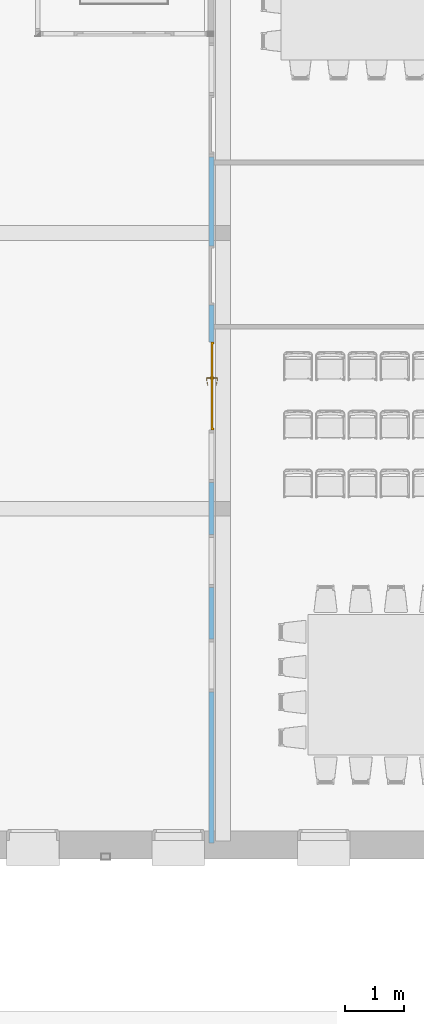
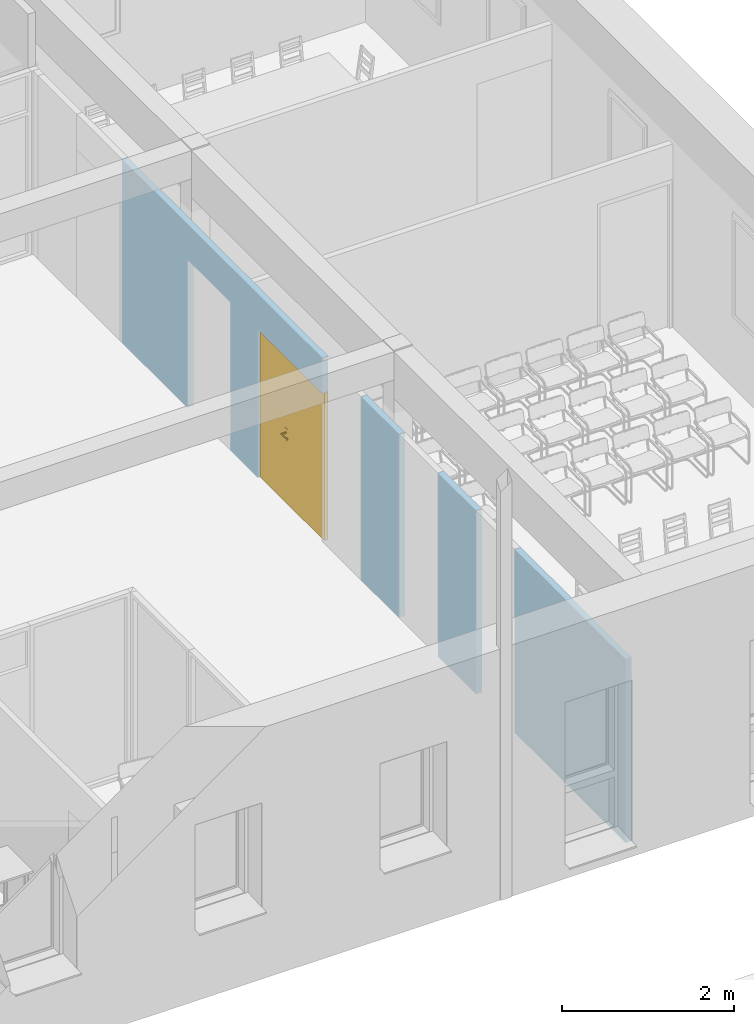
# One storey, part 42 of 91: 1 door, 5 openings, plus 1 element that does not belong to this part.
"""IFC2X3 building model written with IfcOpenShell, lengths in metres."""

from ifc_helpers import new_model, entity, si_unit, converted_unit, derived_unit, money_unit, direction, frame, origin_with_axes, origin_2d_with_axis, place, context, subcontext, project, spatial, polyline, rectangle, outline, extrude, open_shell, faceted_brep, surface_model, material, layer, layer_set, layer_usage, type_object, element, fill, save


model = new_model("IFC2X3")

# Units and contexts
model_context = context("Model", 3, precision=1e-05, world=origin_with_axes(), true_north=direction((0.0, 1.0)))
body_context = subcontext(model_context, "Body", "Model", "MODEL_VIEW")
ifc_project = project(units=[si_unit("LENGTHUNIT", "METRE"), si_unit("AREAUNIT", "SQUARE_METRE"), si_unit("VOLUMEUNIT", "CUBIC_METRE"), converted_unit("PLANEANGLEUNIT", "DEGREE", entity("IfcPlaneAngleMeasure", 0.0174532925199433), si_unit("PLANEANGLEUNIT", "RADIAN"), dimensions=[0, 0, 0, 0, 0, 0, 0]), money_unit("EUR"), converted_unit("TIMEUNIT", "Year", entity("IfcTimeMeasure", 31557600.0), si_unit("TIMEUNIT", "SECOND"), dimensions=[0, 0, 1, 0, 0, 0, 0]), si_unit("MASSUNIT", "GRAM", prefix="KILO"), si_unit("THERMODYNAMICTEMPERATUREUNIT", "DEGREE_CELSIUS"), si_unit("LUMINOUSINTENSITYUNIT", "LUMEN"), si_unit("ENERGYUNIT", "JOULE", prefix="MEGA"), derived_unit("THERMALCONDUCTANCEUNIT", [(si_unit("POWERUNIT", "WATT"), 1), (si_unit("LENGTHUNIT", "METRE"), -1), (si_unit("THERMODYNAMICTEMPERATUREUNIT", "KELVIN"), -1)]), derived_unit("SPECIFICHEATCAPACITYUNIT", [(si_unit("ENERGYUNIT", "JOULE"), 1), (si_unit("MASSUNIT", "GRAM", prefix="KILO"), -1), (si_unit("THERMODYNAMICTEMPERATUREUNIT", "KELVIN"), -1)]), derived_unit("MASSDENSITYUNIT", [(si_unit("MASSUNIT", "GRAM", prefix="KILO"), 1), (si_unit("VOLUMEUNIT", "CUBIC_METRE"), -1)])], contexts=[model_context])

# Site, building, storey
site_placement = place(None, origin_with_axes())
site = spatial("IfcSite", under=ifc_project, at=site_placement, Name="Site", CompositionType="ELEMENT")
building_placement = place(site_placement, origin_with_axes())
building = spatial("IfcBuilding", under=site, at=building_placement, Name="Bâtiment", CompositionType="ELEMENT")
storey_placement = place(building_placement, origin_with_axes())
storey = spatial("IfcBuildingStorey", under=building, at=storey_placement, Name="RDC", CompositionType="ELEMENT", Elevation=0.0)

# Wall, openings, door
ifc_material = material(Name="*PLAQUE DE PLATRE - CLOISON")
ifc_layer = layer(ifc_material, 0.08, ventilated="UNKNOWN")
ifc_layer_set = layer_set([ifc_layer], Name="*PLAQUE DE PLATRE - CLOISON 0.08")
ifc_layer_usage = layer_usage(ifc_layer_set, "AXIS2", "NEGATIVE", 0.0)
wall_type = type_object("IfcWallType", Name="*PLAQUE DE PLATRE - CLOISON 80", PredefinedType="NOTDEFINED")
wall_placement = place(storey_placement, frame((54.18699998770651, -15.46456214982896, 0.0), z_axis=(0.0, 0.0, 1.0), x_axis=(0.0, -1.0, 0.0)))
wall = element("IfcWallStandardCase", 1, at=wall_placement, inside=storey, type_object=wall_type, material=ifc_layer_usage, Name="Cloison modulaire", context=body_context, shape_type="SweptSolid", body=[
    extrude(outline(polyline([(0.0, -0.0799999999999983), (11.69300000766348, -0.0799999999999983), (11.69300000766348, 0.0), (0.0, 0.0), (0.0, -0.0799999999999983)])), origin_with_axes(), (0.0, 0.0, 1.0), 2.6),
])
opening_1_placement = place(wall_placement, frame((6.885022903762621, 0.0, 0.0), z_axis=(0.0, 0.0, 1.0), x_axis=(1.0, 0.0, 0.0)))
element("IfcOpeningElement", 2, at=opening_1_placement, cuts=wall, Name="CH.1+vitrophanie", context=body_context, shape_type="SweptSolid", body=[
    extrude(rectangle(XDim=0.8999999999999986, YDim=2.6, at=origin_2d_with_axis()), frame((0.0, 0.0799999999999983, 1.3), z_axis=(0.0, -1.0, 0.0), x_axis=(-1.0, 0.0, 0.0)), (0.0, 0.0, 1.0), 0.24),
])
opening_2_placement = place(wall_placement, frame((8.669063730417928, 0.0, 0.0), z_axis=(0.0, 0.0, 1.0), x_axis=(1.0, 0.0, 0.0)))
element("IfcOpeningElement", 3, at=opening_2_placement, cuts=wall, Name="CH.1+vitrophanie", context=body_context, shape_type="SweptSolid", body=[
    extrude(rectangle(XDim=0.8999999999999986, YDim=2.6, at=origin_2d_with_axis()), frame((0.0, 0.0799999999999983, 1.3), z_axis=(0.0, -1.0, 0.0), x_axis=(-1.0, 0.0, 0.0)), (0.0, 0.0, 1.0), 0.24),
])
opening_3_placement = place(wall_placement, frame((3.900982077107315, 0.0, 0.0), z_axis=(0.0, 0.0, 1.0), x_axis=(1.0, 0.0, 0.0)))
opening_3 = element("IfcOpeningElement", 4, at=opening_3_placement, cuts=wall, Name="Pi.02", context=body_context, shape_type="SweptSolid", body=[
    extrude(rectangle(XDim=1.5, YDim=2.1, at=origin_2d_with_axis()), frame((0.0, -0.0799999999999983, 1.05), z_axis=(0.0, -1.0, 0.0), x_axis=(1.0, 0.0, 0.0)), (0.0, 0.0, -1.0), 0.24),
])
opening_4_placement = place(wall_placement, frame((2.01799999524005, 0.0, 0.0), z_axis=(0.0, 0.0, 1.0), x_axis=(1.0, 0.0, 0.0)))
element("IfcOpeningElement", 5, at=opening_4_placement, cuts=wall, Name="Pi.01", context=body_context, shape_type="SweptSolid", body=[
    extrude(rectangle(XDim=1.0, YDim=2.1, at=origin_2d_with_axis()), frame((0.0, 0.0799999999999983, 1.05), z_axis=(0.0, -1.0, 0.0), x_axis=(-1.0, 0.0, 0.0)), (0.0, 0.0, 1.0), 0.24),
])
opening_5_placement = place(wall_placement, frame((5.100982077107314, 0.0, 0.0), z_axis=(0.0, 0.0, 1.0), x_axis=(1.0, 0.0, 0.0)))
element("IfcOpeningElement", 6, at=opening_5_placement, cuts=wall, Name="CH.1+vitrophanie", context=body_context, shape_type="SweptSolid", body=[
    extrude(rectangle(XDim=0.8999999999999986, YDim=2.6, at=origin_2d_with_axis()), frame((0.0, 0.0799999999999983, 1.3), z_axis=(0.0, -1.0, 0.0), x_axis=(-1.0, 0.0, 0.0)), (0.0, 0.0, 1.0), 0.24),
])
door_style = type_object("IfcDoorStyle", Name="Porte double 27", ConstructionType="NOTDEFINED", OperationType="DOUBLE_DOOR_SINGLE_SWING", ParameterTakesPrecedence=False, Sizeable=False)
door_placement = place(opening_3_placement, frame((0.75, 0.0, 0.0), z_axis=(0.0, 0.0, 1.0), x_axis=(-1.0, 0.0, 0.0)))
door = element("IfcDoor", 7, at=door_placement, inside=storey, type_object=door_style, Name="Pi.02", OverallHeight=2.1, OverallWidth=1.5, context=body_context, shape_type="SurfaceModel", body=[
    faceted_brep([(1.5, 0.04999999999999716, 0.0), (1.5, 0.0, 0.0), (1.465, 0.0, 0.0), (1.465, 0.04999999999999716, 0.0), (1.5, 0.04999999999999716, 2.04), (1.5, 0.0, 2.04), (1.465, 0.0, 2.04), (1.465, 0.04999999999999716, 2.04)], [[[0, 1, 2, 3]], [[4, 5, 1, 0]], [[1, 5, 6, 2]], [[3, 2, 6, 7]], [[0, 3, 7, 4]], [[7, 6, 5, 4]]]),
    faceted_brep([(0.0, 0.04999999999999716, 0.0), (0.0, 0.0, 0.0), (0.0, 0.0, 2.04), (0.0, 0.04999999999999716, 2.04), (0.03500000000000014, 0.04999999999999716, 0.0), (0.03500000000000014, 0.0, 0.0), (0.03500000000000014, 0.0, 2.04), (0.03500000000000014, 0.04999999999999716, 2.04)], [[[0, 1, 2, 3]], [[4, 5, 1, 0]], [[1, 5, 6, 2]], [[3, 2, 6, 7]], [[0, 3, 7, 4]], [[7, 6, 5, 4]]]),
    faceted_brep([(1.5, 0.04999999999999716, 2.1), (1.5, 0.0, 2.1), (1.5, 0.0, 2.04), (1.5, 0.04999999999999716, 2.04), (0.0, 0.04999999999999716, 2.1), (0.0, 0.0, 2.1), (0.0, 0.0, 2.04), (0.03500000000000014, 0.0, 2.04), (1.465, 0.0, 2.04), (1.465, 0.04999999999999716, 2.04), (0.03500000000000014, 0.04999999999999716, 2.04), (0.0, 0.04999999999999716, 2.04)], [[[0, 1, 2, 3]], [[4, 5, 1, 0]], [[1, 5, 6, 7, 8, 2]], [[3, 2, 8, 9]], [[0, 3, 9, 10, 11, 4]], [[11, 6, 5, 4]], [[10, 7, 6, 11]], [[9, 8, 7, 10]]]),
    faceted_brep([(0.9134999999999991, 0.00999999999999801, 1.06), (0.8565000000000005, 0.00999999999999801, 1.06), (0.8565000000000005, 0.006999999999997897, 1.06), (0.9134999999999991, 0.006999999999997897, 1.06), (0.9134999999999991, 0.00999999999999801, 0.87), (0.8565000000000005, 0.00999999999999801, 0.87), (0.8565000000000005, 0.006999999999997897, 0.87), (0.9134999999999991, 0.006999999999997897, 0.87)], [[[0, 1, 2, 3]], [[0, 4, 5, 1]], [[1, 5, 6, 2]], [[3, 2, 6, 7]], [[4, 0, 3, 7]], [[5, 4, 7, 6]]]),
    faceted_brep([(0.8850000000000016, -0.05400000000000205, 0.99), (0.8900000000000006, -0.05400000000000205, 0.9913397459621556), (0.8900000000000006, -0.06099999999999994, 0.9913397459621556), (0.8850000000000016, -0.06099999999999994, 0.99), (0.8599999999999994, -0.05400000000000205, 0.99), (0.8599999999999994, -0.05400000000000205, 1.01), (0.8850000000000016, -0.05400000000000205, 1.01), (0.8900000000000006, -0.05400000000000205, 1.008660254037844), (0.8936602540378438, -0.05400000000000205, 1.005), (0.8949999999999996, -0.05400000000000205, 1.0), (0.8936602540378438, -0.05400000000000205, 0.995), (0.8936602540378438, -0.06099999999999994, 0.995), (0.8949999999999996, -0.06099999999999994, 1.0), (0.8936602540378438, -0.06099999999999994, 1.005), (0.8900000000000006, -0.06099999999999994, 1.008660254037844), (0.8850000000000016, -0.06099999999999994, 1.01), (0.8599999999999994, -0.06099999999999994, 1.01), (0.8599999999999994, -0.06099999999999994, 0.99)], [[[0, 1, 2, 3]], [[0, 4, 5, 6, 7, 8, 9, 10, 1]], [[1, 10, 11, 2]], [[3, 2, 11, 12, 13, 14, 15, 16, 17]], [[4, 0, 3, 17]], [[5, 4, 17, 16]], [[6, 5, 16, 15]], [[7, 6, 15, 14]], [[8, 7, 14, 13]], [[9, 8, 13, 12]], [[10, 9, 12, 11]]]),
    surface_model("IfcShellBasedSurfaceModel", [(0.8599999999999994, -0.05400000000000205, 1.01), (0.846901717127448, -0.05400000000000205, 1.009607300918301), (0.8465960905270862, -0.06099999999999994, 1.009607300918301), (0.8599999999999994, -0.05400000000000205, 0.99), (0.846901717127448, -0.05400000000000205, 0.9903926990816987), (0.8198902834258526, -0.05866354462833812, 1.008821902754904), (0.8599999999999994, -0.06099999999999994, 1.01), (0.8599999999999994, -0.06099999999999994, 0.99), (0.8208048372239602, -0.05171681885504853, 0.9911780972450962), (0.8208048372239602, -0.05171681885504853, 1.008821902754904), (0.8198902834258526, -0.05866354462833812, 0.9911780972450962), (0.8465960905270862, -0.06099999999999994, 0.9903926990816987), (0.7950062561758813, -0.04716783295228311, 0.9919634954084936), (0.7950062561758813, -0.04716783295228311, 1.008036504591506), (0.7934897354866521, -0.05400841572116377, 1.008036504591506), (0.7934897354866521, -0.05400841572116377, 0.9919634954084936), (0.7697023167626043, -0.04038766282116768, 0.9927488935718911), (0.7697023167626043, -0.04038766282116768, 1.007251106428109), (0.7675953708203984, -0.04707004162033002, 1.007251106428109), (0.7675953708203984, -0.04707004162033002, 0.9927488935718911), (0.7618294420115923, -0.03752217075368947, 0.993), (0.7618294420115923, -0.03752217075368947, 1.007), (0.7595387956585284, -0.04413768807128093, 1.007), (0.7595387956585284, -0.04413768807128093, 0.993)], [open_shell([[[0, 1, 2]], [[0, 3, 4, 1]], [[1, 5, 2]], [[0, 2, 6]], [[4, 3, 7]], [[1, 4, 8, 9]], [[1, 9, 5]], [[2, 5, 10, 11]], [[6, 2, 11, 7]], [[4, 7, 11]], [[8, 4, 11]], [[9, 8, 12, 13]], [[9, 14, 5]], [[5, 14, 15, 10]], [[8, 11, 10]], [[12, 8, 10]], [[13, 12, 16, 17]], [[9, 13, 14]], [[14, 18, 19, 15]], [[12, 10, 15]], [[16, 12, 15]], [[17, 16, 20, 21]], [[13, 17, 18]], [[13, 18, 14]], [[18, 22, 23, 19]], [[16, 15, 19]], [[20, 16, 19]], [[21, 20, 23, 22]], [[17, 21, 22]], [[17, 22, 18]], [[20, 19, 23]]])]),
    faceted_brep([(0.8746076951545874, -0.003000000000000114, 0.994), (0.8730000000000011, -0.003000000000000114, 1.0), (0.8719999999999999, 0.006999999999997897, 1.0), (0.8737416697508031, 0.006999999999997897, 0.9935), (0.8790000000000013, -0.003000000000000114, 0.9896076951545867), (0.8850000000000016, -0.003000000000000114, 0.988), (0.8909999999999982, -0.003000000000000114, 0.9896076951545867), (0.8953923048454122, -0.003000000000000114, 0.994), (0.8969999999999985, -0.003000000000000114, 1.0), (0.8953923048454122, -0.003000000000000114, 1.006), (0.8909999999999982, -0.003000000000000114, 1.010392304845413), (0.8850000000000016, -0.003000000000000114, 1.012), (0.8790000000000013, -0.003000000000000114, 1.010392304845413), (0.8746076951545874, -0.003000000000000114, 1.006), (0.8737416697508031, 0.006999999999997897, 1.0065), (0.878499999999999, 0.006999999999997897, 1.011258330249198), (0.8850000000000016, 0.006999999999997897, 1.013), (0.8915000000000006, 0.006999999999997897, 1.011258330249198), (0.8962583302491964, 0.006999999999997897, 1.0065), (0.8979999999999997, 0.006999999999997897, 1.0), (0.8962583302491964, 0.006999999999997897, 0.9934999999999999), (0.8915000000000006, 0.006999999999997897, 0.9887416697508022), (0.8850000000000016, 0.006999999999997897, 0.987), (0.878499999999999, 0.006999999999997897, 0.9887416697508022)], [[[0, 1, 2, 3]], [[1, 0, 4, 5, 6, 7, 8, 9, 10, 11, 12, 13]], [[1, 13, 14, 2]], [[2, 14, 15, 16, 17, 18, 19, 20, 21, 22, 23, 3]], [[4, 0, 3, 23]], [[5, 4, 23, 22]], [[6, 5, 22, 21]], [[7, 6, 21, 20]], [[8, 7, 20, 19]], [[9, 8, 19, 18]], [[10, 9, 18, 17]], [[11, 10, 17, 16]], [[12, 11, 16, 15]], [[13, 12, 15, 14]]]),
    faceted_brep([(0.86767949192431, 0.003000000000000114, 0.895), (0.8649999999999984, 0.003000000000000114, 0.905), (0.8629999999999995, 0.006999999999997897, 0.905), (0.8659474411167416, 0.006999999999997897, 0.894), (0.875, 0.003000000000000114, 0.8876794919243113), (0.8850000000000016, 0.003000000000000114, 0.885), (0.8949999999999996, 0.003000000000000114, 0.8876794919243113), (0.9023205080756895, 0.003000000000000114, 0.895), (0.9050000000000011, 0.003000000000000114, 0.905), (0.9023205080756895, 0.003000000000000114, 0.915), (0.8949999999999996, 0.003000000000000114, 0.9223205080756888), (0.8850000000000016, 0.003000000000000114, 0.925), (0.875, 0.003000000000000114, 0.9223205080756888), (0.86767949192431, 0.003000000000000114, 0.915), (0.8659474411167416, 0.006999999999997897, 0.916), (0.8739999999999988, 0.006999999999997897, 0.9240525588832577), (0.8850000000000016, 0.006999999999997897, 0.927), (0.8960000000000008, 0.006999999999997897, 0.9240525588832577), (0.904052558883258, 0.006999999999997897, 0.916), (0.907, 0.006999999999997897, 0.905), (0.904052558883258, 0.006999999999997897, 0.894), (0.8960000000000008, 0.006999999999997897, 0.8859474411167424), (0.8850000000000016, 0.006999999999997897, 0.883), (0.8739999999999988, 0.006999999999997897, 0.8859474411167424)], [[[0, 1, 2, 3]], [[1, 0, 4, 5, 6, 7, 8, 9, 10, 11, 12, 13]], [[1, 13, 14, 2]], [[2, 14, 15, 16, 17, 18, 19, 20, 21, 22, 23, 3]], [[4, 0, 3, 23]], [[5, 4, 23, 22]], [[6, 5, 22, 21]], [[7, 6, 21, 20]], [[8, 7, 20, 19]], [[9, 8, 19, 18]], [[10, 9, 18, 17]], [[11, 10, 17, 16]], [[12, 11, 16, 15]], [[13, 12, 15, 14]]]),
    faceted_brep([(0.8800502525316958, 0.0009999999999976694, 0.9090502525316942), (0.8780000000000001, 0.0009999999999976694, 0.914), (0.8769999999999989, 0.003000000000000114, 0.914), (0.8793431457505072, 0.003000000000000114, 0.9083431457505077), (0.8850000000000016, 0.0009999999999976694, 0.907), (0.8899497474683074, 0.0009999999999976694, 0.9090502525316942), (0.8919999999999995, 0.0009999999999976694, 0.914), (0.8899497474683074, 0.0009999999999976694, 0.9189497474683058), (0.8850000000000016, 0.0009999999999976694, 0.921), (0.8800502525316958, 0.0009999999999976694, 0.9189497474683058), (0.8793431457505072, 0.003000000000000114, 0.9196568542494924), (0.8850000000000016, 0.003000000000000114, 0.922), (0.8906568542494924, 0.003000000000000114, 0.9196568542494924), (0.8930000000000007, 0.003000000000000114, 0.914), (0.8906568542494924, 0.003000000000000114, 0.9083431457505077), (0.8850000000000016, 0.003000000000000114, 0.906)], [[[0, 1, 2, 3]], [[1, 0, 4, 5, 6, 7, 8, 9]], [[1, 9, 10, 2]], [[2, 10, 11, 12, 13, 14, 15, 3]], [[4, 0, 3, 15]], [[5, 4, 15, 14]], [[6, 5, 14, 13]], [[7, 6, 13, 12]], [[8, 7, 12, 11]], [[9, 8, 11, 10]]]),
    faceted_brep([(0.8850000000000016, -0.003000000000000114, 1.01), (0.879999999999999, -0.003000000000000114, 1.008660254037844), (0.879999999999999, -0.05400000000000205, 1.008660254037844), (0.8850000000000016, -0.05400000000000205, 1.01), (0.8900000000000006, -0.003000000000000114, 1.008660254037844), (0.8936602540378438, -0.003000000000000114, 1.005), (0.8949999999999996, -0.003000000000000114, 1.0), (0.8936602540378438, -0.003000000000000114, 0.995), (0.8900000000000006, -0.003000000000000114, 0.9913397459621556), (0.8850000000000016, -0.003000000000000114, 0.99), (0.879999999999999, -0.003000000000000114, 0.9913397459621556), (0.8763397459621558, -0.003000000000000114, 0.995), (0.875, -0.003000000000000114, 1.0), (0.8763397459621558, -0.003000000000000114, 1.005), (0.8763397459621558, -0.05400000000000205, 1.005), (0.875, -0.05400000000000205, 1.0), (0.8763397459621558, -0.05400000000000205, 0.995), (0.879999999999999, -0.05400000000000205, 0.9913397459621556), (0.8850000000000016, -0.05400000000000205, 0.99), (0.8900000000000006, -0.05400000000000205, 0.9913397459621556), (0.8936602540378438, -0.05400000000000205, 0.995), (0.8949999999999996, -0.05400000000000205, 1.0), (0.8936602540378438, -0.05400000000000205, 1.005), (0.8900000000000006, -0.05400000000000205, 1.008660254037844)], [[[0, 1, 2, 3]], [[0, 4, 5, 6, 7, 8, 9, 10, 11, 12, 13, 1]], [[1, 13, 14, 2]], [[3, 2, 14, 15, 16, 17, 18, 19, 20, 21, 22, 23]], [[4, 0, 3, 23]], [[5, 4, 23, 22]], [[6, 5, 22, 21]], [[7, 6, 21, 20]], [[8, 7, 20, 19]], [[9, 8, 19, 18]], [[10, 9, 18, 17]], [[11, 10, 17, 16]], [[12, 11, 16, 15]], [[13, 12, 15, 14]]]),
    faceted_brep([(0.9134999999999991, 0.04999999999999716, 1.06), (0.9134999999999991, 0.05299999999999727, 1.06), (0.8565000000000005, 0.05299999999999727, 1.06), (0.8565000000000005, 0.04999999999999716, 1.06), (0.9134999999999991, 0.04999999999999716, 0.87), (0.9134999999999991, 0.05299999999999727, 0.87), (0.8565000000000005, 0.05299999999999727, 0.87), (0.8565000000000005, 0.04999999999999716, 0.87)], [[[0, 1, 2, 3]], [[4, 5, 1, 0]], [[1, 5, 6, 2]], [[3, 2, 6, 7]], [[0, 3, 7, 4]], [[7, 6, 5, 4]]]),
    faceted_brep([(0.8850000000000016, 0.1139999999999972, 0.99), (0.8850000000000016, 0.1209999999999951, 0.99), (0.8900000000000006, 0.1209999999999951, 0.9913397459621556), (0.8900000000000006, 0.1139999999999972, 0.9913397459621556), (0.8599999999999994, 0.1139999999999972, 0.99), (0.8599999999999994, 0.1209999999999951, 0.99), (0.8599999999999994, 0.1209999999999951, 1.01), (0.8850000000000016, 0.1209999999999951, 1.01), (0.8900000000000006, 0.1209999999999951, 1.008660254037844), (0.8936602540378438, 0.1209999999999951, 1.005), (0.8949999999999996, 0.1209999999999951, 1.0), (0.8936602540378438, 0.1209999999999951, 0.995), (0.8936602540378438, 0.1139999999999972, 0.995), (0.8949999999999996, 0.1139999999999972, 1.0), (0.8936602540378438, 0.1139999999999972, 1.005), (0.8900000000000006, 0.1139999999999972, 1.008660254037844), (0.8850000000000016, 0.1139999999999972, 1.01), (0.8599999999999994, 0.1139999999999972, 1.01)], [[[0, 1, 2, 3]], [[4, 5, 1, 0]], [[1, 5, 6, 7, 8, 9, 10, 11, 2]], [[3, 2, 11, 12]], [[0, 3, 12, 13, 14, 15, 16, 17, 4]], [[17, 6, 5, 4]], [[16, 7, 6, 17]], [[15, 8, 7, 16]], [[14, 9, 8, 15]], [[13, 10, 9, 14]], [[12, 11, 10, 13]]]),
    surface_model("IfcShellBasedSurfaceModel", [(0.8599999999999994, 0.1139999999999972, 1.01), (0.8465960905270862, 0.1209999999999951, 1.009607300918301), (0.846901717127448, 0.1139999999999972, 1.009607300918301), (0.8599999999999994, 0.1209999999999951, 1.01), (0.8198902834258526, 0.1186635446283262, 1.008821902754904), (0.846901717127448, 0.1139999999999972, 0.9903926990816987), (0.8599999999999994, 0.1139999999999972, 0.99), (0.8599999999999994, 0.1209999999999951, 0.99), (0.8465960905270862, 0.1209999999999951, 0.9903926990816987), (0.8198902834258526, 0.1186635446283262, 0.9911780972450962), (0.8208048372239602, 0.1117168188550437, 1.008821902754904), (0.8208048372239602, 0.1117168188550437, 0.9911780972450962), (0.7934897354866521, 0.1140084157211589, 0.9919634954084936), (0.7934897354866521, 0.1140084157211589, 1.008036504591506), (0.7950062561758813, 0.1071678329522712, 1.008036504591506), (0.7950062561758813, 0.1071678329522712, 0.9919634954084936), (0.7675953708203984, 0.1070700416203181, 0.9927488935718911), (0.7675953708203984, 0.1070700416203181, 1.007251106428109), (0.7697023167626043, 0.1003876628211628, 1.007251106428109), (0.7697023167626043, 0.1003876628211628, 0.9927488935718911), (0.7595387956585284, 0.104137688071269, 0.993), (0.7595387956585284, 0.104137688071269, 1.007), (0.7618294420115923, 0.09752217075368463, 1.007), (0.7618294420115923, 0.09752217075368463, 0.993)], [open_shell([[[0, 1, 2]], [[0, 3, 1]], [[2, 1, 4]], [[0, 2, 5, 6]], [[3, 7, 8, 1]], [[1, 8, 9, 4]], [[2, 4, 10]], [[2, 10, 11, 5]], [[5, 7, 6]], [[5, 8, 7]], [[11, 9, 8]], [[4, 9, 12, 13]], [[10, 4, 13]], [[10, 14, 15, 11]], [[11, 8, 5]], [[15, 9, 11]], [[15, 12, 9]], [[13, 12, 16, 17]], [[10, 13, 14]], [[14, 18, 19, 15]], [[19, 12, 15]], [[19, 16, 12]], [[17, 16, 20, 21]], [[14, 13, 17]], [[14, 17, 18]], [[18, 22, 23, 19]], [[23, 16, 19]], [[23, 20, 16]], [[22, 21, 20, 23]], [[18, 17, 21]], [[18, 21, 22]]])]),
    faceted_brep([(0.8746076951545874, 0.06299999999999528, 0.994), (0.8737416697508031, 0.05299999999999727, 0.9935), (0.8719999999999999, 0.05299999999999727, 1.0), (0.8730000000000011, 0.06299999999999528, 1.0), (0.8790000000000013, 0.06299999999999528, 0.9896076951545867), (0.878499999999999, 0.05299999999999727, 0.9887416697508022), (0.8850000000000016, 0.05299999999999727, 0.987), (0.8915000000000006, 0.05299999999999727, 0.9887416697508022), (0.8962583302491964, 0.05299999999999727, 0.9934999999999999), (0.8979999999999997, 0.05299999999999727, 1.0), (0.8962583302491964, 0.05299999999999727, 1.0065), (0.8915000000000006, 0.05299999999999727, 1.011258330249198), (0.8850000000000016, 0.05299999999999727, 1.013), (0.878499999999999, 0.05299999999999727, 1.011258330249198), (0.8737416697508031, 0.05299999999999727, 1.0065), (0.8746076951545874, 0.06299999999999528, 1.006), (0.8790000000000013, 0.06299999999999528, 1.010392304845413), (0.8850000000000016, 0.06299999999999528, 1.012), (0.8909999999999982, 0.06299999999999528, 1.010392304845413), (0.8953923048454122, 0.06299999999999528, 1.006), (0.8969999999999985, 0.06299999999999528, 1.0), (0.8953923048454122, 0.06299999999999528, 0.994), (0.8909999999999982, 0.06299999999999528, 0.9896076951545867), (0.8850000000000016, 0.06299999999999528, 0.988)], [[[0, 1, 2, 3]], [[4, 5, 1, 0]], [[2, 1, 5, 6, 7, 8, 9, 10, 11, 12, 13, 14]], [[3, 2, 14, 15]], [[3, 15, 16, 17, 18, 19, 20, 21, 22, 23, 4, 0]], [[23, 6, 5, 4]], [[22, 7, 6, 23]], [[21, 8, 7, 22]], [[20, 9, 8, 21]], [[19, 10, 9, 20]], [[18, 11, 10, 19]], [[17, 12, 11, 18]], [[16, 13, 12, 17]], [[15, 14, 13, 16]]]),
    faceted_brep([(0.86767949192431, 0.05699999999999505, 0.895), (0.8659474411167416, 0.05299999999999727, 0.894), (0.8629999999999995, 0.05299999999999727, 0.905), (0.8649999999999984, 0.05699999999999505, 0.905), (0.875, 0.05699999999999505, 0.8876794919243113), (0.8739999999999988, 0.05299999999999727, 0.8859474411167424), (0.8850000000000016, 0.05299999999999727, 0.883), (0.8960000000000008, 0.05299999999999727, 0.8859474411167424), (0.904052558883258, 0.05299999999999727, 0.894), (0.907, 0.05299999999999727, 0.905), (0.904052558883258, 0.05299999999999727, 0.916), (0.8960000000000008, 0.05299999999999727, 0.9240525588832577), (0.8850000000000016, 0.05299999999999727, 0.927), (0.8739999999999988, 0.05299999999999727, 0.9240525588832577), (0.8659474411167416, 0.05299999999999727, 0.916), (0.86767949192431, 0.05699999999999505, 0.915), (0.875, 0.05699999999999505, 0.9223205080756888), (0.8850000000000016, 0.05699999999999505, 0.925), (0.8949999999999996, 0.05699999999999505, 0.9223205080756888), (0.9023205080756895, 0.05699999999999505, 0.915), (0.9050000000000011, 0.05699999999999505, 0.905), (0.9023205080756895, 0.05699999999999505, 0.895), (0.8949999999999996, 0.05699999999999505, 0.8876794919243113), (0.8850000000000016, 0.05699999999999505, 0.885)], [[[0, 1, 2, 3]], [[4, 5, 1, 0]], [[2, 1, 5, 6, 7, 8, 9, 10, 11, 12, 13, 14]], [[3, 2, 14, 15]], [[3, 15, 16, 17, 18, 19, 20, 21, 22, 23, 4, 0]], [[23, 6, 5, 4]], [[22, 7, 6, 23]], [[21, 8, 7, 22]], [[20, 9, 8, 21]], [[19, 10, 9, 20]], [[18, 11, 10, 19]], [[17, 12, 11, 18]], [[16, 13, 12, 17]], [[15, 14, 13, 16]]]),
    faceted_brep([(0.8800502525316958, 0.0589999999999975, 0.9090502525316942), (0.8793431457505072, 0.05699999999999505, 0.9083431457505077), (0.8769999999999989, 0.05699999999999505, 0.914), (0.8780000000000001, 0.0589999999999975, 0.914), (0.8850000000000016, 0.0589999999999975, 0.907), (0.8850000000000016, 0.05699999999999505, 0.906), (0.8906568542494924, 0.05699999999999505, 0.9083431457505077), (0.8930000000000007, 0.05699999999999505, 0.914), (0.8906568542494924, 0.05699999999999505, 0.9196568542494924), (0.8850000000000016, 0.05699999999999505, 0.922), (0.8793431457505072, 0.05699999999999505, 0.9196568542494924), (0.8800502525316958, 0.0589999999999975, 0.9189497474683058), (0.8850000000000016, 0.0589999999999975, 0.921), (0.8899497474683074, 0.0589999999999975, 0.9189497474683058), (0.8919999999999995, 0.0589999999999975, 0.914), (0.8899497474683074, 0.0589999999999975, 0.9090502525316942)], [[[0, 1, 2, 3]], [[4, 5, 1, 0]], [[2, 1, 5, 6, 7, 8, 9, 10]], [[3, 2, 10, 11]], [[3, 11, 12, 13, 14, 15, 4, 0]], [[15, 6, 5, 4]], [[14, 7, 6, 15]], [[13, 8, 7, 14]], [[12, 9, 8, 13]], [[11, 10, 9, 12]]]),
    faceted_brep([(0.8850000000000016, 0.06299999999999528, 1.01), (0.8850000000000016, 0.1139999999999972, 1.01), (0.879999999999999, 0.1139999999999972, 1.008660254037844), (0.879999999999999, 0.06299999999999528, 1.008660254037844), (0.8900000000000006, 0.06299999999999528, 1.008660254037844), (0.8900000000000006, 0.1139999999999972, 1.008660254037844), (0.8936602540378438, 0.1139999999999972, 1.005), (0.8949999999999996, 0.1139999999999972, 1.0), (0.8936602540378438, 0.1139999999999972, 0.995), (0.8900000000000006, 0.1139999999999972, 0.9913397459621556), (0.8850000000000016, 0.1139999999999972, 0.99), (0.879999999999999, 0.1139999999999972, 0.9913397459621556), (0.8763397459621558, 0.1139999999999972, 0.995), (0.875, 0.1139999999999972, 1.0), (0.8763397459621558, 0.1139999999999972, 1.005), (0.8763397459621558, 0.06299999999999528, 1.005), (0.875, 0.06299999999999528, 1.0), (0.8763397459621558, 0.06299999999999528, 0.995), (0.879999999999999, 0.06299999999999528, 0.9913397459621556), (0.8850000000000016, 0.06299999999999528, 0.99), (0.8900000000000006, 0.06299999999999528, 0.9913397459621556), (0.8936602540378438, 0.06299999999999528, 0.995), (0.8949999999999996, 0.06299999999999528, 1.0), (0.8936602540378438, 0.06299999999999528, 1.005)], [[[0, 1, 2, 3]], [[4, 5, 1, 0]], [[1, 5, 6, 7, 8, 9, 10, 11, 12, 13, 14, 2]], [[3, 2, 14, 15]], [[0, 3, 15, 16, 17, 18, 19, 20, 21, 22, 23, 4]], [[23, 6, 5, 4]], [[22, 7, 6, 23]], [[21, 8, 7, 22]], [[20, 9, 8, 21]], [[19, 10, 9, 20]], [[18, 11, 10, 19]], [[17, 12, 11, 18]], [[16, 13, 12, 17]], [[15, 14, 13, 16]]]),
    faceted_brep([(0.03500000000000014, 0.04999999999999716, 0.0), (0.9349999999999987, 0.04999999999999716, 0.0), (0.9349999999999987, 0.00999999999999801, 0.0), (0.03500000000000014, 0.00999999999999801, 0.0), (0.03500000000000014, 0.04999999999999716, 2.04), (0.9349999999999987, 0.04999999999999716, 2.04), (0.9349999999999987, 0.00999999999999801, 2.04), (0.03500000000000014, 0.00999999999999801, 2.04)], [[[0, 1, 2, 3]], [[0, 4, 5, 1]], [[1, 5, 6, 2]], [[3, 2, 6, 7]], [[4, 0, 3, 7]], [[5, 4, 7, 6]]]),
    faceted_brep([(1.465, 0.04999999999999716, 0.0), (1.465, 0.00999999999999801, 0.0), (0.9349999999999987, 0.00999999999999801, 0.0), (0.9349999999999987, 0.04999999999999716, 0.0), (1.465, 0.04999999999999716, 2.04), (1.465, 0.00999999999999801, 2.04), (0.9349999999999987, 0.00999999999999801, 2.04), (0.9349999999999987, 0.04999999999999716, 2.04)], [[[0, 1, 2, 3]], [[4, 5, 1, 0]], [[1, 5, 6, 2]], [[3, 2, 6, 7]], [[0, 3, 7, 4]], [[7, 6, 5, 4]]]),
])
fill(opening_3, door)

save(model, "model.ifc")
